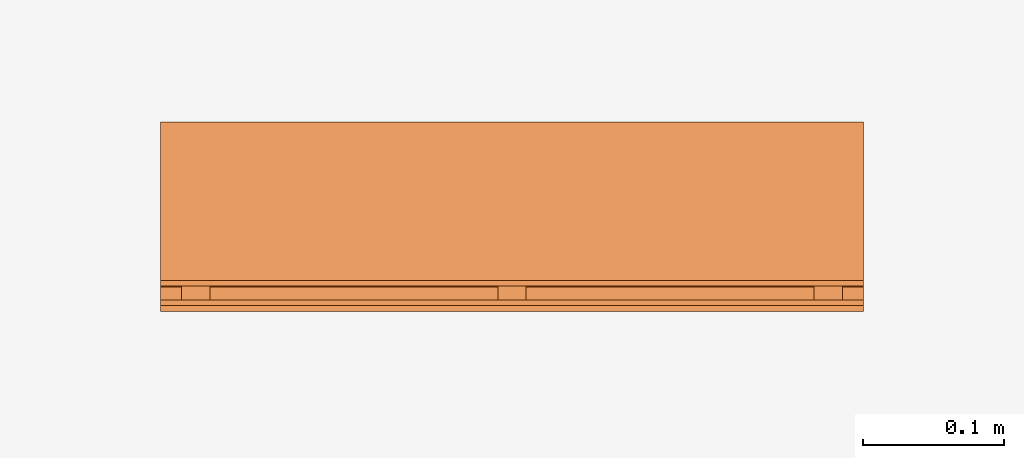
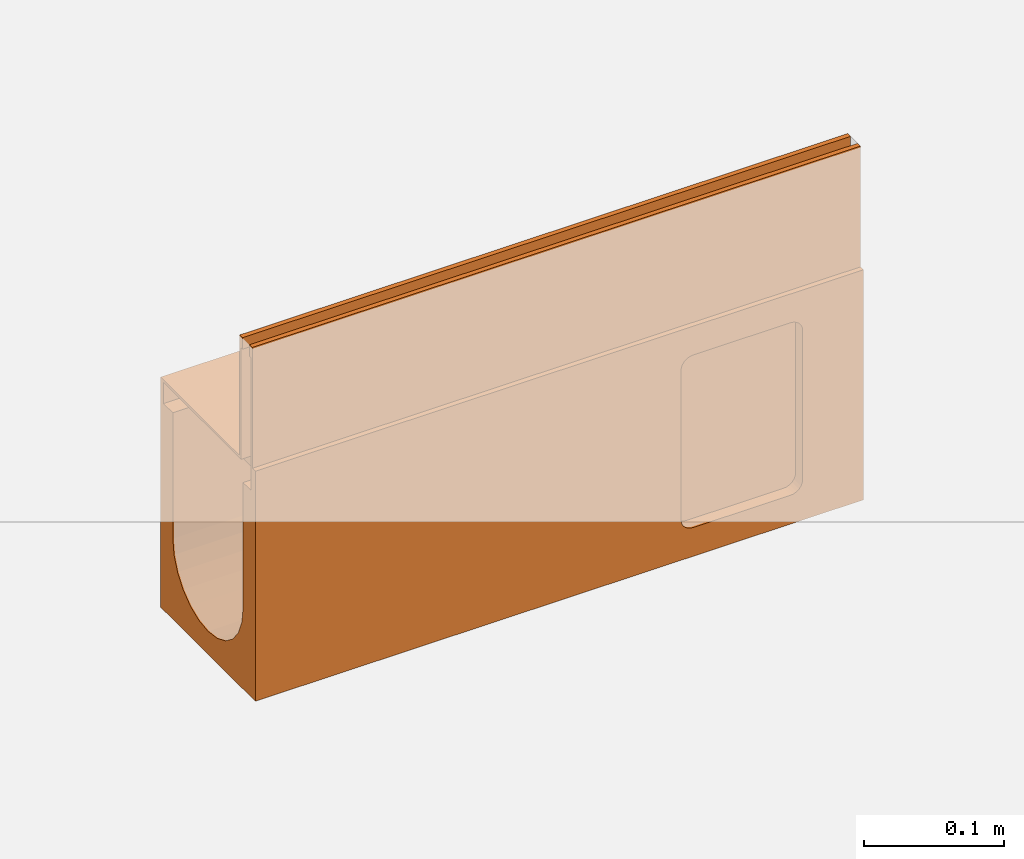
# One storey, part 2 of 2: 1 proxy.
"""IFC2X3 building model written with IfcOpenShell, lengths in millimetres."""

from ifc_helpers import new_model, entity, si_unit, converted_unit, direction, frame, origin, place, context, subcontext, project, spatial, faceted_brep, source, transform, mapped, material, material_list, element, save


model = new_model("IFC2X3")

# Units and contexts
model_context = context("Model", 3, precision=1e-06, world=origin(), true_north=direction((2.0, 6.12303176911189e-17, 1.0)))
context_of_model = context(None, 3, precision=1e-06, world=origin(), true_north=direction((2.0, 6.12303176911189e-17, 1.0)))
body_context = subcontext(model_context, "Body", "Model", "MODEL_VIEW")
ifc_project = project(units=[si_unit("LENGTHUNIT", "METRE", prefix="MILLI"), si_unit("AREAUNIT", "SQUARE_METRE", prefix="MILLI"), si_unit("VOLUMEUNIT", "CUBIC_METRE", prefix="MILLI"), converted_unit("PLANEANGLEUNIT", "DEGREE", entity("IfcRatioMeasure", 0.0174532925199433), si_unit("PLANEANGLEUNIT", "RADIAN"), dimensions=[0, 0, 0, 0, 0, 0, 0]), si_unit("TIMEUNIT", "SECOND")], contexts=[model_context, context_of_model])

# Site, building, storey
site_placement = place(None, origin())
site = spatial("IfcSite", under=ifc_project, at=site_placement, Name="Default", CompositionType="ELEMENT")
building_placement = place(site_placement, origin())
building = spatial("IfcBuilding", under=site, at=building_placement, CompositionType="ELEMENT")
storey_placement = place(building_placement, origin())
storey = spatial("IfcBuildingStorey", under=building, at=storey_placement, Name="Level 1", CompositionType="ELEMENT", Elevation=0.0)

# Proxy
ifc_material_1 = material(Name="Steel, Galvanized")
ifc_material_2 = material(Name="Vienite® Synthetic Resin Concrete")
ifc_material_list = material_list([ifc_material_1, ifc_material_2])
shared_shape = source(origin(), body_context, "Body", "Brep", [
    faceted_brep([(63.2499999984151, 240.0, -107.000975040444), (63.2499999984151, 242.0, -109.000975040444), (63.2499999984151, 258.0, -109.000975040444), (63.2499999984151, 260.0, -107.000975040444), (63.2499999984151, 242.0, -123.500975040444), (63.2499999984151, 240.0, -125.500975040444), (63.2499999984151, 258.0, -123.500975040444), (63.2499999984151, 260.0, -125.500975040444), (-61.2500000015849, 240.0, -125.500975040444), (-61.2500000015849, 242.0, -123.500975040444), (-61.2500000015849, 258.0, -123.500975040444), (-61.2500000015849, 260.0, -125.500975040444), (-61.2500000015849, 242.0, -109.000975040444), (-61.2500000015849, 240.0, -107.000975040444), (-61.2500000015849, 258.0, -109.000975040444), (-61.2500000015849, 260.0, -107.000975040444)], [[[0, 1, 2, 3]], [[4, 1, 0, 5]], [[3, 2, 6, 7]], [[6, 4, 5, 7]], [[8, 9, 10, 11]], [[12, 9, 8, 13]], [[11, 10, 14, 15]], [[14, 12, 13, 15]], [[5, 0, 13, 8]], [[7, 5, 8, 11]], [[3, 7, 11, 15]], [[0, 3, 15, 13]], [[1, 4, 9, 12]], [[2, 1, 12, 14]], [[6, 2, 14, 10]], [[4, 6, 10, 9]]]),
    faceted_brep([(63.2499999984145, 15.0, -107.000975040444), (63.2499999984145, 17.0, -109.000975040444), (63.2499999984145, 33.0, -109.000975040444), (63.2499999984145, 35.0, -107.000975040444), (63.2499999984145, 17.0, -123.500975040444), (63.2499999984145, 15.0, -125.500975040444), (63.2499999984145, 33.0, -123.500975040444), (63.2499999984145, 35.0, -125.500975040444), (-61.2500000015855, 15.0, -125.500975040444), (-61.2500000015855, 17.0, -123.500975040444), (-61.2500000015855, 33.0, -123.500975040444), (-61.2500000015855, 35.0, -125.500975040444), (-61.2500000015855, 17.0, -109.000975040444), (-61.2500000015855, 15.0, -107.000975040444), (-61.2500000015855, 33.0, -109.000975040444), (-61.2500000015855, 35.0, -107.000975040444)], [[[0, 1, 2, 3]], [[4, 1, 0, 5]], [[3, 2, 6, 7]], [[6, 4, 5, 7]], [[8, 9, 10, 11]], [[12, 9, 8, 13]], [[11, 10, 14, 15]], [[14, 12, 13, 15]], [[5, 0, 13, 8]], [[11, 7, 5, 8]], [[3, 7, 11, 15]], [[0, 3, 15, 13]], [[1, 4, 9, 12]], [[14, 2, 1, 12]], [[6, 2, 14, 10]], [[9, 4, 6, 10]]]),
    faceted_brep([(63.2499999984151, 465.0, -107.000975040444), (63.2499999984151, 467.0, -109.000975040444), (63.2499999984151, 483.0, -109.000975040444), (63.2499999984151, 485.0, -107.000975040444), (63.2499999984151, 467.0, -123.500975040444), (63.2499999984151, 465.0, -125.500975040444), (63.2499999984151, 483.0, -123.500975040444), (63.2499999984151, 485.0, -125.500975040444), (-61.2500000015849, 465.0, -125.500975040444), (-61.2500000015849, 467.0, -123.500975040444), (-61.2500000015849, 483.0, -123.500975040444), (-61.2500000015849, 485.0, -125.500975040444), (-61.2500000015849, 467.0, -109.000975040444), (-61.2500000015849, 465.0, -107.000975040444), (-61.2500000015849, 483.0, -109.000975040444), (-61.2500000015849, 485.0, -107.000975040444)], [[[0, 1, 2, 3]], [[4, 1, 0, 5]], [[3, 2, 6, 7]], [[6, 4, 5, 7]], [[8, 9, 10, 11]], [[12, 9, 8, 13]], [[11, 10, 14, 15]], [[14, 12, 13, 15]], [[5, 0, 13, 8]], [[7, 5, 8, 11]], [[3, 7, 11, 15]], [[0, 3, 15, 13]], [[1, 4, 9, 12]], [[2, 1, 12, 14]], [[6, 2, 14, 10]], [[4, 6, 10, 9]]]),
    faceted_brep([(-47.2500000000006, 0.0, -10.0), (-47.2500000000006, 0.0, -107.0), (-45.2500000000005, 0.0, -105.0), (-45.2500000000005, 0.0, 0.0), (-49.2500000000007, 0.0, 0.0), (-49.2500000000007, 0.0, -10.0), (63.2499999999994, 0.0, -107.0), (63.2499999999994, 0.0, -105.0), (-45.2500000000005, 500.0, -105.0), (63.2499999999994, 500.0, -105.0), (63.2499999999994, 500.0, -107.0), (-47.2500000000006, 500.0, -107.0), (-47.2500000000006, 500.0, -10.0), (-45.2500000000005, 500.0, 0.0), (-49.2500000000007, 500.0, -10.0), (-49.2500000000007, 500.0, 0.0)], [[[0, 1, 2, 3]], [[4, 5, 0, 3]], [[6, 7, 2, 1]], [[8, 9, 10, 11]], [[12, 13, 8, 11]], [[12, 14, 15, 13]], [[12, 0, 5, 14]], [[1, 0, 12, 11]], [[10, 6, 1, 11]], [[9, 7, 6, 10]], [[2, 7, 9, 8]], [[3, 2, 8, 13]], [[4, 3, 13, 15]], [[5, 4, 15, 14]]]),
    faceted_brep([(-59.2500000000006, 500.0, 0.0), (-59.2500000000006, 500.0, -10.0), (-61.2500000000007, 500.0, -10.0), (-63.2500000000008, 500.0, 0.0), (-63.2500000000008, 500.0, -125.499999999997), (-61.2500000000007, 500.0, -125.499999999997), (-61.2500000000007, 0.0, -10.0), (-63.2500000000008, 0.0, 0.0), (-63.2500000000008, 0.0, -125.499999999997), (-61.2500000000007, 0.0, -125.499999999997), (-59.2500000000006, 0.0, 0.0), (-59.2500000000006, 0.0, -10.0)], [[[0, 1, 2, 3]], [[4, 3, 2, 5]], [[6, 7, 8, 9]], [[10, 7, 6, 11]], [[5, 9, 8, 4]], [[6, 9, 5, 2]], [[1, 11, 6, 2]], [[10, 11, 1, 0]], [[7, 10, 0, 3]], [[4, 8, 7, 3]]]),
    faceted_brep([(63.2499999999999, 500.0, -125.500000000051), (63.2499999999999, 500.0, -105.0), (67.4999999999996, 500.0, -105.0), (67.4999999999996, 500.0, -305.0), (50.0, 500.0, -235.0), (50.0, 500.0, -125.500000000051), (48.2962913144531, 500.0, -247.940952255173), (-67.5000000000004, 500.0, -105.0), (-63.2500000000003, 500.0, -105.0), (-63.2500000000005, 500.0, -125.500000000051), (-67.5000000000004, 500.0, -305.0), (-50.0, 500.0, -125.500000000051), (-50.0, 500.0, -235.0), (35.3553390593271, 500.0, -270.355339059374), (43.3012701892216, 500.0, -260.0), (25.0, 500.0, -278.301270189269), (0.0, 500.0, -285.0), (12.9409522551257, 500.0, -283.2962913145), (-43.3012701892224, 500.0, -260.0), (-35.3553390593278, 500.0, -270.355339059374), (-48.2962913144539, 500.0, -247.940952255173), (-25.0, 500.0, -278.301270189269), (-12.9409522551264, 500.0, -283.2962913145), (67.4999999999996, 0.0, -305.0), (12.9409522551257, 0.0, -283.2962913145), (0.0, 0.0, -285.0), (25.0, 0.0, -278.301270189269), (35.3553390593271, 0.0, -270.355339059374), (43.3012701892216, 0.0, -260.0), (48.2962913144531, 0.0, -247.940952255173), (-12.9409522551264, 0.0, -283.2962913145), (-67.5000000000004, 0.0, -305.0), (-25.0, 0.0, -278.301270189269), (-35.3553390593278, 0.0, -270.355339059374), (-43.3012701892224, 0.0, -260.0), (-48.2962913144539, 0.0, -247.940952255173), (50.0, 0.0, -235.0), (63.2499999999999, 0.0, -125.500000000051), (50.0, 0.0, -125.500000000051), (67.4999999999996, 0.0, -105.0), (63.2499999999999, 0.0, -105.0), (-50.0, 0.0, -235.0), (-50.0, 0.0, -125.500000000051), (-63.2500000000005, 0.0, -125.500000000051), (-63.2500000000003, 0.0, -105.0), (-67.5000000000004, 0.0, -105.0), (-67.5000000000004, 51.3397459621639, -135.0), (-67.5000000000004, 50.3407417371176, -137.411809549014), (-67.5000000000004, 52.9289321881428, -132.928932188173), (-67.5000000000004, 50.0, -140.0), (-67.5000000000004, 50.0, -270.0), (-67.5000000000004, 60.0, -130.0), (-67.5000000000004, 57.4118095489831, -130.340741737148), (-67.5000000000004, 55.0, -131.339745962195), (-67.5000000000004, 140.0, -130.0), (-67.5000000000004, 50.3407417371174, -272.588190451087), (-67.5000000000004, 51.3397459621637, -275.0), (-67.5000000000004, 52.9289321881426, -277.071067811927), (-67.5000000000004, 55.0, -278.660254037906), (-67.5000000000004, 57.4118095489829, -279.659258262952), (-67.5000000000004, 60.0, -280.0), (-67.5000000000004, 140.0, -280.0), (-67.5000000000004, 142.588190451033, -130.340741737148), (-67.5000000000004, 147.071067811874, -132.928932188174), (-67.5000000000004, 145.0, -131.339745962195), (-67.5000000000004, 148.660254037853, -135.0), (-67.5000000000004, 149.659258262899, -137.411809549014), (-67.5000000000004, 150.0, -140.0), (-67.5000000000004, 145.0, -278.660254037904), (-67.5000000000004, 147.071067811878, -277.071067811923), (-67.5000000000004, 142.588190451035, -279.659258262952), (-67.5000000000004, 149.659258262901, -272.588190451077), (-67.5000000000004, 150.0, -270.0), (-67.5000000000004, 148.660254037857, -275.0), (-14.2350474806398, 46.8740795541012, -305.0), (0.0, 45.0, -305.0), (-27.5000000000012, 52.3686027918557, -305.0), (-53.1259204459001, 85.764952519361, -305.0), (-47.6313972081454, 72.4999999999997, -305.0), (-38.8908729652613, 61.1091270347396, -305.0), (-55.0, 100.0, -305.0), (14.2350474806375, 46.8740795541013, -305.0), (27.4999999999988, 52.368602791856, -305.0), (38.8908729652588, 61.1091270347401, -305.0), (47.6313972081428, 72.5000000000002, -305.0), (53.1259204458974, 85.7649525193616, -305.0), (55.0, 100.0, -305.0), (-53.1259204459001, 114.235047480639, -305.0), (-47.6313972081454, 127.5, -305.0), (-38.8908729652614, 138.89087296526, -305.0), (-27.5000000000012, 147.631397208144, -305.0), (-14.2350474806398, 153.125920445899, -305.0), (0.0, 155.0, -305.0), (47.6313972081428, 127.5, -305.0), (38.8908729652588, 138.89087296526, -305.0), (53.1259204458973, 114.235047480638, -305.0), (14.2350474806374, 153.125920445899, -305.0), (27.4999999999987, 147.631397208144, -305.0), (67.4999999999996, 51.3397459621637, -275.0), (67.4999999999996, 50.3407417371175, -272.588190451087), (67.4999999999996, 52.9289321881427, -277.071067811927), (67.4999999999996, 50.0, -270.0), (67.4999999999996, 50.0, -140.0), (67.4999999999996, 60.0, -280.0), (67.4999999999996, 57.4118095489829, -279.659258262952), (67.4999999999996, 55.0, -278.660254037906), (67.4999999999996, 140.0, -280.0), (67.4999999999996, 50.340741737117, -137.411809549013), (67.4999999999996, 51.339745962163, -135.0), (67.4999999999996, 52.9289321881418, -132.928932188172), (67.4999999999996, 55.0, -131.339745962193), (67.4999999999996, 57.4118095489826, -130.340741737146), (67.4999999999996, 60.0, -130.0), (67.4999999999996, 140.0, -130.0), (67.4999999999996, 142.588190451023, -279.659258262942), (67.4999999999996, 147.071067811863, -277.071067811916), (67.4999999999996, 145.0, -278.660254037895), (67.4999999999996, 148.660254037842, -275.0), (67.4999999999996, 149.659258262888, -272.588190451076), (67.4999999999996, 150.0, -270.0), (67.4999999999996, 145.0, -131.339745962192), (67.4999999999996, 147.071067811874, -132.928932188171), (67.4999999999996, 142.588190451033, -130.340741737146), (67.4999999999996, 149.659258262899, -137.411809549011), (67.4999999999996, 150.0, -140.0), (67.4999999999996, 148.660254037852, -135.0), (57.4999999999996, 149.659258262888, -272.588190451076), (57.4999999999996, 150.0, -270.0), (57.4999999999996, 140.0, -280.0), (57.4999999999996, 148.660254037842, -275.0), (57.4999999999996, 142.588190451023, -279.659258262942), (57.4999999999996, 145.0, -278.660254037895), (57.4999999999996, 147.071067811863, -277.071067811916), (57.4999999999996, 50.0, -140.0), (57.4999999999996, 150.0, -140.0), (57.4999999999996, 140.0, -130.0), (57.4999999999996, 149.659258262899, -137.411809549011), (57.4999999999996, 148.660254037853, -135.0), (57.4999999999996, 147.071067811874, -132.928932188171), (57.4999999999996, 145.0, -131.339745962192), (57.4999999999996, 142.588190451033, -130.340741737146), (57.4999999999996, 50.0, -270.0), (57.4999999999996, 55.0, -278.660254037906), (57.4999999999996, 57.4118095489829, -279.659258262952), (57.4999999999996, 60.0, -280.0), (57.4999999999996, 52.9289321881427, -277.071067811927), (57.4999999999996, 50.3407417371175, -272.588190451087), (57.4999999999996, 51.3397459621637, -275.0), (57.4999999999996, 60.0, -130.0), (57.4999999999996, 57.411809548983, -130.340741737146), (57.4999999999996, 55.0, -131.339745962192), (57.4999999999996, 51.3397459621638, -135.0), (57.4999999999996, 50.3407417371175, -137.411809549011), (57.4999999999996, 52.9289321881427, -132.928932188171), (-57.5000000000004, 55.0, -131.339745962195), (-57.5000000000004, 57.4118095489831, -130.340741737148), (-57.5000000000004, 60.0, -130.0), (-57.5000000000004, 50.3407417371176, -137.411809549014), (-57.5000000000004, 50.0, -140.0), (-57.5000000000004, 150.0, -140.0), (-57.5000000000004, 51.3397459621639, -135.0), (-57.5000000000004, 52.9289321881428, -132.928932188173), (-57.5000000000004, 140.0, -130.0), (-57.5000000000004, 142.588190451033, -130.340741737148), (-57.5000000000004, 145.0, -131.339745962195), (-57.5000000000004, 147.071067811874, -132.928932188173), (-57.5000000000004, 148.660254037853, -135.0), (-57.5000000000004, 149.659258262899, -137.411809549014), (-57.5000000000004, 50.0, -270.0), (-57.5000000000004, 150.0, -270.0), (-57.5000000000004, 50.3407417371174, -272.588190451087), (-57.5000000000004, 60.0, -280.0), (-57.5000000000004, 51.3397459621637, -275.0), (-57.5000000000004, 55.0, -278.660254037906), (-57.5000000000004, 52.9289321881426, -277.071067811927), (-57.5000000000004, 57.4118095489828, -279.659258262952), (-57.5000000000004, 140.0, -280.0), (-57.5000000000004, 149.659258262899, -272.588190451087), (-57.5000000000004, 148.660254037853, -275.0), (-57.5000000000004, 147.071067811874, -277.071067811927), (-57.5000000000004, 145.0, -278.660254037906), (-57.5000000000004, 142.588190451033, -279.659258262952), (-27.5000000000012, 147.631397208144, -295.0), (-14.2350474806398, 153.125920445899, -295.0), (0.0, 155.0, -295.0), (14.2350474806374, 153.125920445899, -295.0), (-38.8908729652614, 138.89087296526, -295.0), (-47.6313972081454, 127.5, -295.0), (-55.0, 100.0, -295.0), (-53.1259204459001, 114.235047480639, -295.0), (47.6313972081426, 72.4999999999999, -295.0), (27.4999999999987, 147.631397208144, -295.0), (53.1259204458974, 114.235047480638, -295.0), (55.0, 100.0, -295.0), (47.6313972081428, 127.5, -295.0), (38.8908729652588, 138.89087296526, -295.0), (-47.6313972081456, 72.5, -295.0), (-27.5000000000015, 52.3686027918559, -295.0), (-38.8908729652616, 61.1091270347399, -295.0), (0.0, 45.0, -295.0), (-14.2350474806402, 46.8740795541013, -295.0), (38.8908729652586, 61.1091270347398, -295.0), (53.1259204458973, 85.7649525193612, -295.0), (27.4999999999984, 52.3686027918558, -295.0), (14.2350474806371, 46.8740795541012, -295.0), (-53.1259204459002, 85.7649525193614, -295.0)], [[[0, 1, 2, 3]], [[4, 5, 0, 3]], [[4, 3, 6]], [[7, 8, 9, 10]], [[9, 11, 12, 10]], [[13, 14, 3]], [[15, 13, 3]], [[16, 17, 3, 10]], [[3, 17, 15]], [[14, 6, 3]], [[18, 19, 10]], [[20, 18, 10]], [[21, 22, 10]], [[10, 22, 16]], [[21, 10, 19]], [[20, 10, 12]], [[23, 24, 25]], [[24, 23, 26]], [[27, 26, 23]], [[28, 27, 23]], [[23, 29, 28]], [[25, 30, 31, 23]], [[31, 30, 32]], [[33, 34, 31]], [[32, 33, 31]], [[31, 34, 35]], [[29, 23, 36]], [[37, 38, 36, 23]], [[39, 40, 37, 23]], [[41, 42, 43, 31]], [[43, 44, 45, 31]], [[41, 31, 35]], [[8, 44, 43, 9]], [[45, 44, 8, 7]], [[45, 46, 47]], [[46, 45, 48]], [[47, 49, 45]], [[45, 49, 50]], [[51, 52, 45]], [[53, 48, 45]], [[52, 53, 45]], [[54, 51, 45, 7]], [[50, 55, 31, 45]], [[31, 56, 57]], [[56, 31, 55]], [[57, 58, 31]], [[59, 60, 31]], [[58, 59, 31]], [[31, 60, 61]], [[62, 54, 7]], [[63, 64, 7]], [[62, 7, 64]], [[65, 7, 66]], [[7, 65, 63]], [[67, 66, 7, 10]], [[68, 69, 10]], [[61, 70, 10, 31]], [[68, 10, 70]], [[71, 72, 10]], [[73, 10, 69]], [[10, 73, 71]], [[72, 67, 10]], [[31, 74, 75, 23]], [[74, 31, 76]], [[77, 78, 31]], [[79, 76, 31]], [[78, 79, 31]], [[31, 80, 77]], [[23, 81, 82]], [[81, 23, 75]], [[23, 82, 83]], [[83, 84, 23]], [[85, 86, 23]], [[84, 85, 23]], [[23, 86, 3]], [[10, 87, 80, 31]], [[88, 87, 10]], [[89, 10, 90]], [[10, 89, 88]], [[91, 90, 10]], [[92, 91, 10, 3]], [[93, 94, 3]], [[95, 93, 3]], [[96, 92, 3]], [[97, 3, 94]], [[3, 97, 96]], [[95, 3, 86]], [[23, 98, 99]], [[98, 23, 100]], [[99, 101, 23]], [[23, 101, 102]], [[103, 104, 23]], [[105, 100, 23]], [[104, 105, 23]], [[106, 103, 23, 3]], [[102, 107, 39, 23]], [[39, 108, 109]], [[108, 39, 107]], [[109, 110, 39]], [[111, 112, 39]], [[110, 111, 39]], [[39, 112, 113]], [[114, 106, 3]], [[115, 116, 3]], [[114, 3, 116]], [[117, 3, 118]], [[3, 117, 115]], [[119, 118, 3, 2]], [[120, 121, 2]], [[113, 122, 2, 39]], [[120, 2, 122]], [[123, 124, 2]], [[125, 2, 121]], [[2, 125, 123]], [[124, 119, 2]], [[40, 39, 2, 1]], [[0, 37, 40, 1]], [[5, 38, 37, 0]], [[4, 36, 38, 5]], [[14, 28, 29, 6]], [[6, 29, 36, 4]], [[15, 26, 27, 13]], [[13, 27, 28, 14]], [[17, 24, 26, 15]], [[24, 17, 16, 25]], [[21, 32, 30, 22]], [[19, 33, 32, 21]], [[20, 35, 34, 18]], [[18, 34, 33, 19]], [[12, 41, 35, 20]], [[22, 30, 25, 16]], [[42, 41, 12, 11]], [[43, 42, 11, 9]], [[126, 127, 128, 129]], [[128, 130, 131, 129]], [[131, 132, 129]], [[133, 127, 134, 135]], [[134, 136, 137, 138]], [[135, 138, 139, 140]], [[135, 134, 138]], [[141, 128, 127, 133]], [[142, 143, 144, 145]], [[146, 147, 145, 144]], [[141, 146, 144, 128]], [[148, 149, 150, 133]], [[151, 152, 133, 153]], [[150, 153, 133]], [[148, 133, 135]], [[152, 107, 102, 133]], [[151, 108, 107, 152]], [[108, 151, 153, 109]], [[150, 110, 109, 153]], [[149, 111, 110, 150]], [[111, 149, 148, 112]], [[112, 148, 135, 113]], [[140, 122, 113, 135]], [[139, 120, 122, 140]], [[120, 139, 138, 121]], [[137, 125, 121, 138]], [[136, 123, 125, 137]], [[123, 136, 134, 124]], [[124, 134, 127, 119]], [[126, 118, 119, 127]], [[129, 117, 118, 126]], [[117, 129, 132, 115]], [[131, 116, 115, 132]], [[130, 114, 116, 131]], [[114, 130, 128, 106]], [[106, 128, 144, 103]], [[143, 104, 103, 144]], [[142, 105, 104, 143]], [[105, 142, 145, 100]], [[147, 98, 100, 145]], [[146, 99, 98, 147]], [[99, 146, 141, 101]], [[101, 141, 133, 102]], [[154, 155, 156, 157]], [[158, 157, 156, 159]], [[157, 160, 161, 154]], [[162, 163, 164, 159]], [[164, 165, 166, 167]], [[167, 159, 164]], [[159, 156, 162]], [[168, 158, 159, 169]], [[170, 168, 171, 172]], [[173, 174, 171, 175]], [[172, 171, 174]], [[176, 171, 168, 169]], [[177, 178, 179, 169]], [[180, 181, 176, 179]], [[169, 179, 176]], [[155, 52, 51, 156]], [[154, 53, 52, 155]], [[53, 154, 161, 48]], [[160, 46, 48, 161]], [[157, 47, 46, 160]], [[47, 157, 158, 49]], [[162, 156, 51, 54]], [[167, 66, 67, 159]], [[166, 65, 66, 167]], [[65, 166, 165, 63]], [[164, 64, 63, 165]], [[163, 62, 64, 164]], [[62, 163, 162, 54]], [[72, 169, 159, 67]], [[181, 70, 61, 176]], [[180, 68, 70, 181]], [[68, 180, 179, 69]], [[178, 73, 69, 179]], [[177, 71, 73, 178]], [[71, 177, 169, 72]], [[171, 176, 61, 60]], [[170, 55, 50, 168]], [[172, 56, 55, 170]], [[56, 172, 174, 57]], [[173, 58, 57, 174]], [[175, 59, 58, 173]], [[59, 175, 171, 60]], [[158, 168, 50, 49]], [[182, 183, 184, 185]], [[186, 182, 185, 187]], [[188, 189, 187, 190]], [[190, 187, 185, 191]], [[192, 193, 191, 194]], [[195, 194, 191]], [[196, 188, 190, 197]], [[198, 196, 197]], [[199, 200, 197, 201]], [[193, 202, 190, 191]], [[199, 201, 203, 204]], [[197, 190, 201]], [[205, 188, 196]], [[192, 95, 86, 193]], [[194, 93, 95, 192]], [[191, 97, 94, 195]], [[195, 94, 93, 194]], [[185, 96, 97, 191]], [[96, 185, 184, 92]], [[183, 91, 92, 184]], [[182, 90, 91, 183]], [[187, 88, 89, 186]], [[186, 89, 90, 182]], [[189, 87, 88, 187]], [[87, 189, 188, 80]], [[205, 77, 80, 188]], [[196, 78, 77, 205]], [[197, 76, 79, 198]], [[198, 79, 78, 196]], [[200, 74, 76, 197]], [[74, 200, 199, 75]], [[204, 81, 75, 199]], [[203, 82, 81, 204]], [[190, 84, 83, 201]], [[201, 83, 82, 203]], [[202, 85, 84, 190]], [[85, 202, 193, 86]]]),
])
proxy_placement = place(storey_placement, frame((143.656586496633, 99.9218925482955, 0.0), z_axis=(0.0, 0.0, 1.0), x_axis=(0.0, 1.0, 0.0)))
element("IfcBuildingElementProxy", 1, at=proxy_placement, inside=storey, material=ifc_material_list, Name="Civil-Drainage-Channel-ACO-MultiDrain-M100D-Brickslot-Channel-System:23101 - No 10.1J Constant Depth Channel - 500mm LG -Invert Depth 180mm:23101 - No 10.1J Constant Depth Channel - 500mm LG -Invert Depth 180mm", ObjectType="23101 - No 10.1J Constant Depth Channel - 500mm LG -Invert Depth 180mm", CompositionType="ELEMENT", context=body_context, shape_type="MappedRepresentation", body=[
    mapped(shared_shape, transform((0.0, 0.0, 0.0), scale=1.0)),
])

save(model, "model.ifc")
